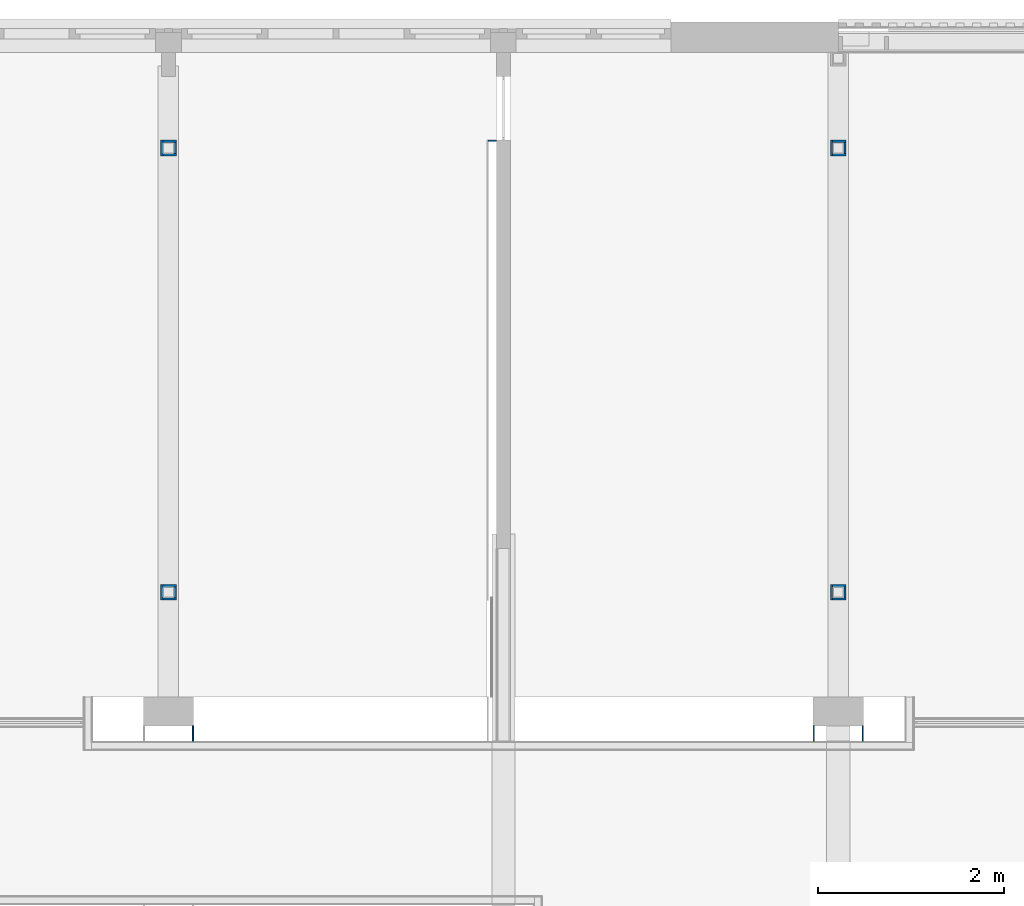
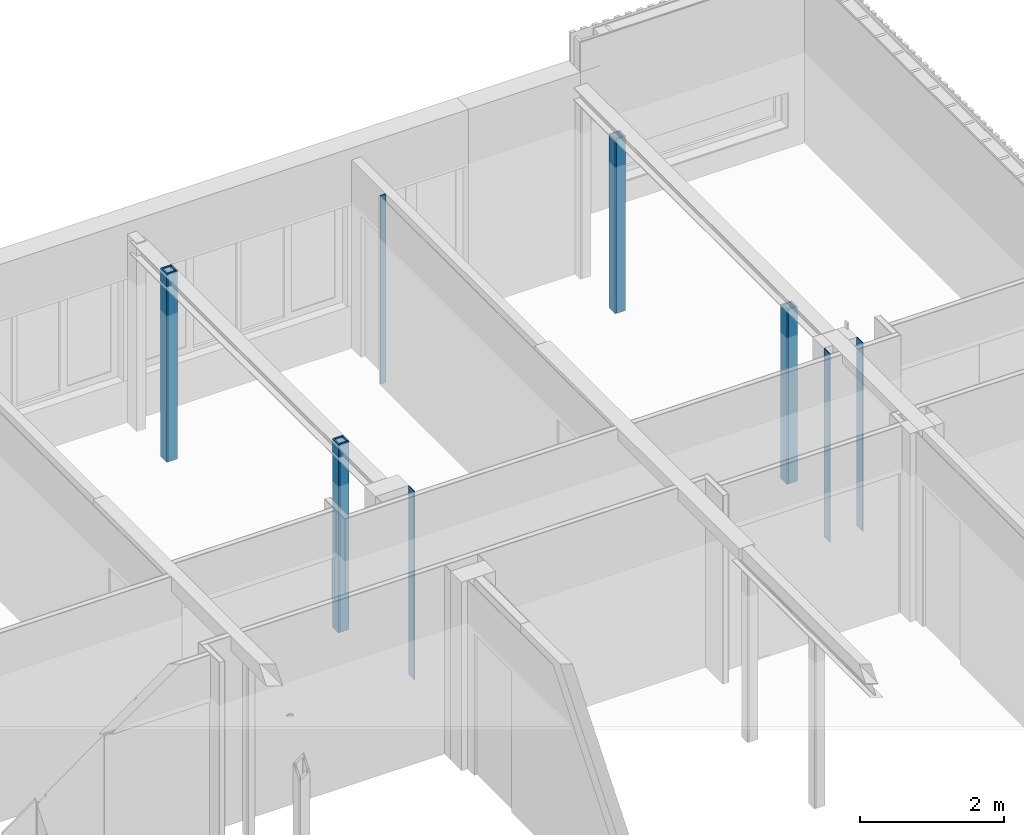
# One storey, part 53 of 99: 20 walls.
"""IFC2X3 building model written with IfcOpenShell, lengths in millimetres."""

from ifc_helpers import new_model, entity, si_unit, converted_unit, derived_unit, money_unit, direction, frame, origin_with_axes, place, context, subcontext, project, spatial, faceted_brep, material, type_object, element, save


model = new_model("IFC2X3")

# Units and contexts
model_context = context("Model", 3, precision=0.01, world=origin_with_axes(), true_north=direction((0.0, 1.0)))
body_context = subcontext(model_context, "Body", "Model", "MODEL_VIEW")
ifc_project = project(units=[si_unit("LENGTHUNIT", "METRE", prefix="MILLI"), si_unit("AREAUNIT", "SQUARE_METRE"), si_unit("VOLUMEUNIT", "CUBIC_METRE"), converted_unit("PLANEANGLEUNIT", "DEGREE", entity("IfcPlaneAngleMeasure", 0.0174532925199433), si_unit("PLANEANGLEUNIT", "RADIAN"), dimensions=[0, 0, 0, 0, 0, 0, 0]), money_unit("EUR"), converted_unit("TIMEUNIT", "Year", entity("IfcTimeMeasure", 31557600.0), si_unit("TIMEUNIT", "SECOND"), dimensions=[0, 0, 1, 0, 0, 0, 0]), si_unit("MASSUNIT", "GRAM", prefix="KILO"), si_unit("THERMODYNAMICTEMPERATUREUNIT", "DEGREE_CELSIUS"), si_unit("LUMINOUSINTENSITYUNIT", "LUMEN"), si_unit("ENERGYUNIT", "JOULE", prefix="MEGA"), derived_unit("THERMALCONDUCTANCEUNIT", [(si_unit("POWERUNIT", "WATT"), 1), (si_unit("LENGTHUNIT", "METRE"), -1), (si_unit("THERMODYNAMICTEMPERATUREUNIT", "KELVIN"), -1)]), derived_unit("SPECIFICHEATCAPACITYUNIT", [(si_unit("ENERGYUNIT", "JOULE"), 1), (si_unit("MASSUNIT", "GRAM", prefix="KILO"), -1), (si_unit("THERMODYNAMICTEMPERATUREUNIT", "KELVIN"), -1)]), derived_unit("MASSDENSITYUNIT", [(si_unit("MASSUNIT", "GRAM", prefix="KILO"), 1), (si_unit("VOLUMEUNIT", "CUBIC_METRE"), -1)])], contexts=[model_context])

# Site, building, storey
site_placement = place(None, origin_with_axes())
site = spatial("IfcSite", under=ifc_project, at=site_placement, Name="Site", CompositionType="ELEMENT")
building_placement = place(site_placement, origin_with_axes())
building = spatial("IfcBuilding", under=site, at=building_placement, Name="Naam gebouw", CompositionType="ELEMENT")
storey_placement = place(building_placement, frame((0.0, 0.0, 7650.0), z_axis=(0.0, 0.0, 1.0), x_axis=(1.0, 0.0, 0.0)))
storey = spatial("IfcBuildingStorey", under=building, at=storey_placement, Name="2e verdieping N", CompositionType="ELEMENT", Elevation=7650.0)

# Walls
ifc_material = material(Name="Gipsplaat")
wall_type_1 = type_object("IfcWallType", Name="Metalstud 100 enkel 100", PredefinedType="NOTDEFINED")
for number, where, z_axis, x_axis, name in (
    (1, (43470.0, 20105.91242510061, 0.0), (0.0, 0.0, 1.0), (0.0, 1.0, 0.0), "_Wand-x"),
    (2, (50669.99999999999, 20105.91242510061, 0.0), (0.0, 0.0, 1.0), (0.0, 1.0, 0.0), "_Wand-x"),
):
    element("IfcWall", number, at=place(storey_placement, frame(where, z_axis=z_axis, x_axis=x_axis)), inside=storey, type_object=wall_type_1, material=ifc_material, Name=name, context=body_context, shape_type="Brep", body=[
        faceted_brep([(164.9999999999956, 0.0, 0.0), (164.9999999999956, 12.50000000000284, 0.0), (164.9999999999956, 12.50000000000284, 3199.999999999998), (164.9999999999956, 0.0, 3199.999999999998), (0.0, 12.50000000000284, 0.0), (0.0, 0.0, 0.0), (0.0, 12.50000000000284, 3199.999999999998), (0.0, 0.0, 3199.999999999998)], [[[0, 1, 2, 3]], [[4, 1, 0, 5]], [[1, 4, 6, 2]], [[2, 6, 7, 3]], [[5, 0, 3, 7]], [[4, 5, 7, 6]]]),
    ])
wall_1_placement = place(storey_placement, frame((50129.99999999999, 20105.91242510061, 0.0), z_axis=(0.0, 0.0, 1.0), x_axis=(0.0, 1.0, 0.0)))
element("IfcWall", 3, at=wall_1_placement, inside=storey, type_object=wall_type_1, material=ifc_material, Name="_Wand-x", context=body_context, shape_type="Brep", body=[
    faceted_brep([(164.9999999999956, -12.50000000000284, 0.0), (164.9999999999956, 0.0, 0.0), (164.9999999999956, 0.0, 3199.999999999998), (164.9999999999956, -12.50000000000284, 3199.999999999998), (0.0, 0.0, 0.0), (0.0, -12.50000000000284, 0.0), (0.0, 0.0, 3199.999999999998), (0.0, -12.49999999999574, 3199.999999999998)], [[[0, 1, 2, 3]], [[4, 1, 0, 5]], [[1, 4, 6, 2]], [[2, 6, 7, 3]], [[5, 0, 3, 7]], [[4, 5, 7, 6]]]),
])
wall_2_placement = place(storey_placement, frame((46725.00000000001, 26565.9124251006, 0.0), z_axis=(0.0, 0.0, 1.0), x_axis=(-1.0, 0.0, 0.0)))
element("IfcWall", 4, at=wall_2_placement, inside=storey, type_object=wall_type_1, material=ifc_material, Name="_Wand-x", context=body_context, shape_type="Brep", body=[
    faceted_brep([(87.49999999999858, 12.49999999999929, 0.0), (87.49999999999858, 0.0, 0.0), (0.0, 0.0, 0.0), (0.0, 12.49999999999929, 0.0), (87.49999999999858, 12.49999999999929, 3199.999999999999), (87.49999999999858, 0.0, 3199.999999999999), (0.0, 0.0, 3199.999999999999), (0.0, 12.49999999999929, 3199.999999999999)], [[[0, 1, 2, 3]], [[1, 0, 4, 5]], [[1, 5, 6, 2]], [[7, 3, 2, 6]], [[4, 0, 3, 7]], [[5, 4, 7, 6]]]),
])
wall_type_2 = type_object("IfcWallType", Name="Gipsplaat 25", PredefinedType="NOTDEFINED")
wall_3_placement = place(storey_placement, frame((50484.99999999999, 26395.9124251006, 0.0), z_axis=(0.0, 0.0, 1.0), x_axis=(0.0, 1.0, 0.0)))
element("IfcWall", 5, at=wall_3_placement, inside=storey, type_object=wall_type_2, material=ifc_material, Name="_Wand-x", context=body_context, shape_type="Brep", body=[
    faceted_brep([(145.0000000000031, 25.00000000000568, 0.0), (145.0000000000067, 0.0, 0.0), (24.99999999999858, 0.0, 0.0), (24.99999999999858, 24.99999999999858, 0.0), (145.0000000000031, 25.00000000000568, 2959.999999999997), (145.0000000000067, 0.0, 2959.999999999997), (24.99999999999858, 0.0, 2959.999999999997), (24.99999999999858, 24.99999999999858, 2959.999999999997)], [[[0, 1, 2, 3]], [[1, 0, 4, 5]], [[1, 5, 6, 2]], [[7, 3, 2, 6]], [[4, 0, 3, 7]], [[5, 4, 7, 6]]]),
])
wall_4_placement = place(storey_placement, frame((50484.99999999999, 21620.9124251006, 0.0), z_axis=(0.0, 0.0, 1.0), x_axis=(0.0, 1.0, 0.0)))
element("IfcWall", 6, at=wall_4_placement, inside=storey, type_object=wall_type_2, material=ifc_material, Name="_Wand-x", context=body_context, shape_type="Brep", body=[
    faceted_brep([(145.0000000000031, 25.00000000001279, 0.0), (145.0000000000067, 0.0, 0.0), (24.99999999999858, 0.0, 0.0), (24.99999999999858, 25.00000000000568, 0.0), (145.0000000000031, 25.00000000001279, 2959.999999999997), (145.0000000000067, 0.0, 2959.999999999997), (24.99999999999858, 0.0, 2959.999999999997), (24.99999999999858, 25.00000000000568, 2959.999999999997)], [[[0, 1, 2, 3]], [[1, 0, 4, 5]], [[1, 5, 6, 2]], [[7, 3, 2, 6]], [[4, 0, 3, 7]], [[5, 4, 7, 6]]]),
])
for number, where, z_axis, x_axis, name in (
    (7, (50314.99999999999, 26395.91242510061, 0.0), (0.0, 0.0, 1.0), (0.0, 1.0, 0.0), "_Wand-x"),
    (8, (50314.99999999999, 21620.91242510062, 0.0), (0.0, 0.0, 1.0), (0.0, 1.0, 0.0), "_Wand-x"),
):
    element("IfcWall", number, at=place(storey_placement, frame(where, z_axis=z_axis, x_axis=x_axis)), inside=storey, type_object=wall_type_2, material=ifc_material, Name=name, context=body_context, shape_type="Brep", body=[
        faceted_brep([(169.999999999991, -24.99999999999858, 2959.999999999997), (169.999999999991, 0.0, 2959.999999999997), (0.0, 0.0, 2959.999999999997), (0.0, -24.99999999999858, 2959.999999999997), (169.999999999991, -24.99999999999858, 0.0), (169.999999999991, 0.0, 0.0), (0.0, 0.0, 0.0), (0.0, -24.99999999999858, 0.0)], [[[0, 1, 2, 3]], [[1, 0, 4, 5]], [[1, 5, 6, 2]], [[7, 3, 2, 6]], [[4, 0, 3, 7]], [[5, 4, 7, 6]]]),
    ])
wall_5_placement = place(storey_placement, frame((43114.99999999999, 26565.9124251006, 0.0), z_axis=(0.0, 0.0, 1.0), x_axis=(1.0, 0.0, 0.0)))
element("IfcWall", 9, at=wall_5_placement, inside=storey, type_object=wall_type_2, material=ifc_material, Name="_Wand-x", context=body_context, shape_type="Brep", body=[
    faceted_brep([(170.0000000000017, -24.99999999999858, 3199.999999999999), (170.0000000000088, 0.0, 3199.999999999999), (24.99999999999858, 0.0, 3199.999999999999), (24.99999999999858, -24.99999999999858, 3199.999999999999), (170.0000000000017, -24.99999999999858, 0.0), (170.0000000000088, 0.0, 0.0), (24.99999999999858, 0.0, 0.0), (24.99999999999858, -24.99999999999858, 0.0)], [[[0, 1, 2, 3]], [[1, 0, 4, 5]], [[1, 5, 6, 2]], [[7, 3, 2, 6]], [[4, 0, 3, 7]], [[5, 4, 7, 6]]]),
])
wall_6_placement = place(storey_placement, frame((43114.99999999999, 26395.91242510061, 0.0), z_axis=(0.0, 0.0, 1.0), x_axis=(1.0, 0.0, 0.0)))
element("IfcWall", 10, at=wall_6_placement, inside=storey, type_object=wall_type_2, material=ifc_material, Name="_Wand-x", context=body_context, shape_type="Brep", body=[
    faceted_brep([(169.9999999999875, 25.00000000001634, 0.0), (169.9999999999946, 0.0, 0.0), (24.99999999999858, 0.0, 0.0), (24.99999999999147, 25.00000000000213, 0.0), (169.9999999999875, 25.00000000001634, 3199.999999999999), (169.9999999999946, 0.0, 3199.999999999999), (24.99999999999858, 0.0, 3199.999999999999), (24.99999999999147, 25.00000000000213, 3199.999999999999)], [[[0, 1, 2, 3]], [[1, 0, 4, 5]], [[1, 5, 6, 2]], [[7, 3, 2, 6]], [[4, 0, 3, 7]], [[5, 4, 7, 6]]]),
])
wall_7_placement = place(storey_placement, frame((43114.99999999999, 21620.91242510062, 0.0), z_axis=(0.0, 0.0, 1.0), x_axis=(1.0, 0.0, 0.0)))
element("IfcWall", 11, at=wall_7_placement, inside=storey, type_object=wall_type_2, material=ifc_material, Name="_Wand-x", context=body_context, shape_type="Brep", body=[
    faceted_brep([(170.0000000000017, 25.00000000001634, 0.0), (169.9999999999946, 0.0, 0.0), (24.99999999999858, 0.0, 0.0), (24.99999999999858, 25.00000000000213, 0.0), (170.0000000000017, 25.00000000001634, 3199.999999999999), (169.9999999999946, 0.0, 3199.999999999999), (24.99999999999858, 0.0, 3199.999999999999), (24.99999999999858, 25.00000000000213, 3199.999999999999)], [[[0, 1, 2, 3]], [[1, 0, 4, 5]], [[1, 5, 6, 2]], [[7, 3, 2, 6]], [[4, 0, 3, 7]], [[5, 4, 7, 6]]]),
])
wall_8_placement = place(storey_placement, frame((43114.99999999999, 26395.91242510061, 0.0), z_axis=(0.0, 0.0, 1.0), x_axis=(0.0, 1.0, 0.0)))
element("IfcWall", 12, at=wall_8_placement, inside=storey, type_object=wall_type_2, material=ifc_material, Name="_Wand-x", context=body_context, shape_type="Brep", body=[
    faceted_brep([(169.999999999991, -24.99999999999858, 3199.999999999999), (169.999999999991, 0.0, 3199.999999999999), (0.0, 0.0, 3199.999999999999), (0.0, -24.99999999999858, 3199.999999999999), (169.999999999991, -24.99999999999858, 0.0), (169.999999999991, 0.0, 0.0), (0.0, 0.0, 0.0), (0.0, -24.99999999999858, 0.0)], [[[0, 1, 2, 3]], [[1, 0, 4, 5]], [[1, 5, 6, 2]], [[7, 3, 2, 6]], [[4, 0, 3, 7]], [[5, 4, 7, 6]]]),
])
wall_9_placement = place(storey_placement, frame((50314.99999999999, 21620.91242510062, 0.0), z_axis=(0.0, 0.0, 1.0), x_axis=(1.0, 0.0, 0.0)))
element("IfcWall", 13, at=wall_9_placement, inside=storey, type_object=wall_type_2, material=ifc_material, Name="_Wand-x", context=body_context, shape_type="Brep", body=[
    faceted_brep([(170.0000000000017, 25.00000000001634, 0.0), (169.9999999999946, 0.0, 0.0), (24.99999999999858, 0.0, 0.0), (24.99999999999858, 25.00000000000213, 0.0), (170.0000000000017, 25.00000000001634, 2959.999999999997), (169.9999999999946, 0.0, 2959.999999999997), (24.99999999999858, 0.0, 2959.999999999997), (24.99999999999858, 25.00000000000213, 2959.999999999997)], [[[0, 1, 2, 3]], [[1, 0, 4, 5]], [[1, 5, 6, 2]], [[7, 3, 2, 6]], [[4, 0, 3, 7]], [[5, 4, 7, 6]]]),
])
wall_10_placement = place(storey_placement, frame((43284.99999999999, 21620.9124251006, 0.0), z_axis=(0.0, 0.0, 1.0), x_axis=(0.0, 1.0, 0.0)))
element("IfcWall", 14, at=wall_10_placement, inside=storey, type_object=wall_type_2, material=ifc_material, Name="_Wand-x", context=body_context, shape_type="Brep", body=[
    faceted_brep([(145.0000000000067, 25.00000000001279, 0.0), (145.0000000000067, 0.0, 0.0), (24.99999999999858, 0.0, 0.0), (25.00000000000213, 25.00000000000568, 0.0), (145.0000000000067, 25.00000000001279, 3199.999999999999), (145.0000000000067, 0.0, 3199.999999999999), (24.99999999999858, 0.0, 3199.999999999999), (25.00000000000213, 25.00000000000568, 3199.999999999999)], [[[0, 1, 2, 3]], [[1, 0, 4, 5]], [[1, 5, 6, 2]], [[7, 3, 2, 6]], [[4, 0, 3, 7]], [[5, 4, 7, 6]]]),
])
wall_11_placement = place(storey_placement, frame((43114.99999999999, 21620.91242510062, 0.0), z_axis=(0.0, 0.0, 1.0), x_axis=(0.0, 1.0, 0.0)))
element("IfcWall", 15, at=wall_11_placement, inside=storey, type_object=wall_type_2, material=ifc_material, Name="_Wand-x", context=body_context, shape_type="Brep", body=[
    faceted_brep([(169.999999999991, -24.99999999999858, 3199.999999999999), (169.999999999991, 0.0, 3199.999999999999), (0.0, 0.0, 3199.999999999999), (0.0, -24.99999999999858, 3199.999999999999), (169.999999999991, -24.99999999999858, 0.0), (169.999999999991, 0.0, 0.0), (0.0, 0.0, 0.0), (0.0, -24.99999999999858, 0.0)], [[[0, 1, 2, 3]], [[1, 0, 4, 5]], [[1, 5, 6, 2]], [[7, 3, 2, 6]], [[4, 0, 3, 7]], [[5, 4, 7, 6]]]),
])
wall_12_placement = place(storey_placement, frame((43114.99999999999, 21790.91242510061, 0.0), z_axis=(0.0, 0.0, 1.0), x_axis=(1.0, 0.0, 0.0)))
element("IfcWall", 16, at=wall_12_placement, inside=storey, type_object=wall_type_2, material=ifc_material, Name="_Wand-x", context=body_context, shape_type="Brep", body=[
    faceted_brep([(170.0000000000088, -24.99999999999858, 3199.999999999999), (170.0000000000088, 0.0, 3199.999999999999), (24.99999999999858, 0.0, 3199.999999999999), (24.99999999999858, -24.99999999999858, 3199.999999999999), (170.0000000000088, -24.99999999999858, 0.0), (170.0000000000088, 0.0, 0.0), (24.99999999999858, 0.0, 0.0), (24.99999999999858, -24.99999999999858, 0.0)], [[[0, 1, 2, 3]], [[1, 0, 4, 5]], [[1, 5, 6, 2]], [[7, 3, 2, 6]], [[4, 0, 3, 7]], [[5, 4, 7, 6]]]),
])
wall_13_placement = place(storey_placement, frame((43284.99999999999, 26395.9124251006, 0.0), z_axis=(0.0, 0.0, 1.0), x_axis=(0.0, 1.0, 0.0)))
element("IfcWall", 17, at=wall_13_placement, inside=storey, type_object=wall_type_2, material=ifc_material, Name="_Wand-x", context=body_context, shape_type="Brep", body=[
    faceted_brep([(145.0000000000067, 25.00000000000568, 0.0), (145.0000000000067, 0.0, 0.0), (24.99999999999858, 0.0, 0.0), (25.00000000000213, 24.99999999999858, 0.0), (145.0000000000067, 25.00000000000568, 3199.999999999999), (145.0000000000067, 0.0, 3199.999999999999), (24.99999999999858, 0.0, 3199.999999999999), (25.00000000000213, 24.99999999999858, 3199.999999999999)], [[[0, 1, 2, 3]], [[1, 0, 4, 5]], [[1, 5, 6, 2]], [[7, 3, 2, 6]], [[4, 0, 3, 7]], [[5, 4, 7, 6]]]),
])
wall_14_placement = place(storey_placement, frame((50314.99999999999, 26395.91242510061, 0.0), z_axis=(0.0, 0.0, 1.0), x_axis=(1.0, 0.0, 0.0)))
element("IfcWall", 18, at=wall_14_placement, inside=storey, type_object=wall_type_2, material=ifc_material, Name="_Wand-x", context=body_context, shape_type="Brep", body=[
    faceted_brep([(169.9999999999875, 25.00000000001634, 0.0), (169.9999999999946, 0.0, 0.0), (24.99999999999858, 0.0, 0.0), (24.99999999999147, 25.00000000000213, 0.0), (169.9999999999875, 25.00000000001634, 2959.999999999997), (169.9999999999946, 0.0, 2959.999999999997), (24.99999999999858, 0.0, 2959.999999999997), (24.99999999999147, 25.00000000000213, 2959.999999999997)], [[[0, 1, 2, 3]], [[1, 0, 4, 5]], [[1, 5, 6, 2]], [[7, 3, 2, 6]], [[4, 0, 3, 7]], [[5, 4, 7, 6]]]),
])
wall_15_placement = place(storey_placement, frame((50314.99999999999, 21790.91242510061, 0.0), z_axis=(0.0, 0.0, 1.0), x_axis=(1.0, 0.0, 0.0)))
element("IfcWall", 19, at=wall_15_placement, inside=storey, type_object=wall_type_2, material=ifc_material, Name="_Wand-x", context=body_context, shape_type="Brep", body=[
    faceted_brep([(170.0000000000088, -24.99999999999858, 2959.999999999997), (170.0000000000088, 0.0, 2959.999999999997), (24.99999999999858, 0.0, 2959.999999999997), (24.99999999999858, -24.99999999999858, 2959.999999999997), (170.0000000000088, -24.99999999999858, 0.0), (170.0000000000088, 0.0, 0.0), (24.99999999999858, 0.0, 0.0), (24.99999999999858, -24.99999999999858, 0.0)], [[[0, 1, 2, 3]], [[1, 0, 4, 5]], [[1, 5, 6, 2]], [[7, 3, 2, 6]], [[4, 0, 3, 7]], [[5, 4, 7, 6]]]),
])
wall_16_placement = place(storey_placement, frame((50314.99999999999, 26565.9124251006, 0.0), z_axis=(0.0, 0.0, 1.0), x_axis=(1.0, 0.0, 0.0)))
element("IfcWall", 20, at=wall_16_placement, inside=storey, type_object=wall_type_2, material=ifc_material, Name="_Wand-x", context=body_context, shape_type="Brep", body=[
    faceted_brep([(170.0000000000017, -24.99999999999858, 2959.999999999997), (170.0000000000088, 0.0, 2959.999999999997), (24.99999999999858, 0.0, 2959.999999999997), (24.99999999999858, -24.99999999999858, 2959.999999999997), (170.0000000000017, -24.99999999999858, 0.0), (170.0000000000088, 0.0, 0.0), (24.99999999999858, 0.0, 0.0), (24.99999999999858, -24.99999999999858, 0.0)], [[[0, 1, 2, 3]], [[1, 0, 4, 5]], [[1, 5, 6, 2]], [[7, 3, 2, 6]], [[4, 0, 3, 7]], [[5, 4, 7, 6]]]),
])

save(model, "model.ifc")
